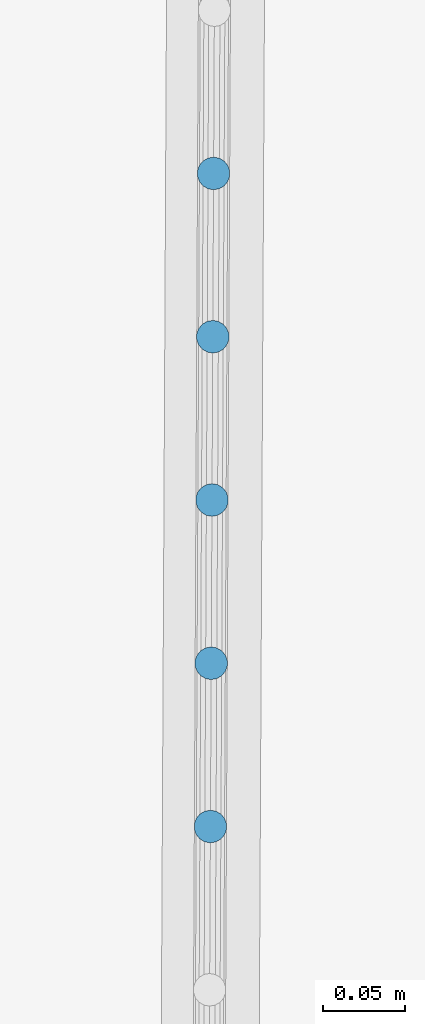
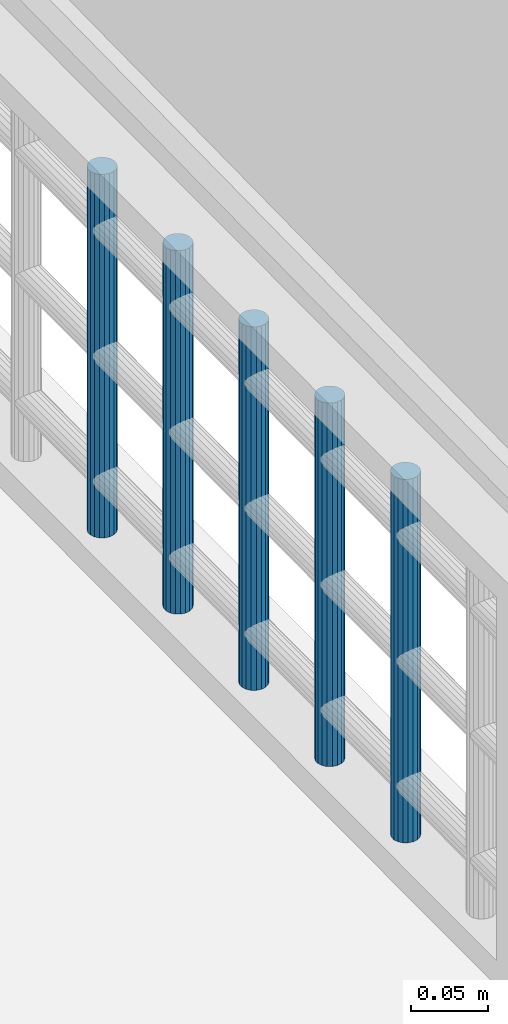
# One storey, part 29 of 66: 5 members, 1 element without a shape of its own.
"""IFC2X3 building model written with IfcOpenShell, lengths in centimetres."""

import ifcopenshell
import ifcopenshell.guid

model = None  # the IFC model being written
_history = None  # IfcOwnerHistory: only IFC2X3 demands one
_inside = {}  # id of a spatial element -> (the spatial element, [elements in it])
_under = {}  # id of a project, library or spatial element -> (it, [spatial elements below it])
_declared = {}  # id of a project -> (the project, [libraries it declares])
_typed = {}  # id of a type object -> (the type object, [elements of that type])
_made_of = {}  # id of a material, layer set ... -> (it, [elements and type objects made of it])


def new_model(schema):
    """Start an empty IFC model of exactly this schema.

    Asked for "IFC4X3", IfcOpenShell would pick the latest addendum, in which some entities
    have other attributes; the version numbers below select the first issue.
    IFC2X3 requires an IfcOwnerHistory on every rooted entity: one is made here for all.
    """
    global model, _history
    if schema == "IFC4X3":
        model = ifcopenshell.file(schema_version=(4, 3, 0, 0))
    else:
        model = ifcopenshell.file(schema=schema)
    _inside.clear()
    _under.clear()
    _declared.clear()
    _typed.clear()
    _made_of.clear()
    _history = None
    if model.schema == "IFC2X3":
        org = make("IfcOrganization", Name="unknown")
        user = make(
            "IfcPersonAndOrganization",
            ThePerson=make("IfcPerson", FamilyName="unknown"),
            TheOrganization=org,
        )
        app = make(
            "IfcApplication",
            ApplicationDeveloper=org,
            Version="unknown",
            ApplicationFullName="unknown",
            ApplicationIdentifier="unknown",
        )
        _history = make(
            "IfcOwnerHistory",
            OwningUser=user,
            OwningApplication=app,
            ChangeAction="ADDED",
            CreationDate=0,
        )
    return model


def make(cls, **values):
    """One entity of the class cls with the attributes given. An attribute that is None is left unset."""
    return model.create_entity(
        cls, **{name: value for name, value in values.items() if value is not None}
    )


def entity(cls, *values):
    """Any entity or typed value of the class cls, its attributes in the order of the schema. None: left unset."""
    e = model.create_entity(cls)
    for i, value in enumerate(values):
        if value is not None:
            e[i] = value
    return e


def rooted(cls, **values):
    """An entity with a GlobalId (a new one), such as an element, a storey or a relation."""
    return make(cls, GlobalId=ifcopenshell.guid.new(), OwnerHistory=_history, **values)


def si_unit(unit_type, name, prefix=None):
    """IfcSIUnit, for example si_unit("LENGTHUNIT", "METRE", prefix="MILLI")."""
    return make("IfcSIUnit", UnitType=unit_type, Prefix=prefix, Name=name)


def converted_unit(unit_type, name, factor, base, dimensions=None, offset=None):
    """IfcConversionBasedUnit, such as the inch: factor (a typed value) times the base unit."""
    return make(
        "IfcConversionBasedUnit"
        if offset is None
        else "IfcConversionBasedUnitWithOffset",
        ConversionOffset=offset,
        Dimensions=None
        if dimensions is None
        else entity("IfcDimensionalExponents", *dimensions),
        UnitType=unit_type,
        Name=name,
        ConversionFactor=make(
            "IfcMeasureWithUnit", ValueComponent=factor, UnitComponent=base
        ),
    )


def assignment(units):
    """IfcUnitAssignment: the units of a project."""
    return None if units is None else make("IfcUnitAssignment", Units=units)


def point(xyz):
    """IfcCartesianPoint."""
    return None if xyz is None else make("IfcCartesianPoint", Coordinates=xyz)


def direction(xyz):
    """IfcDirection."""
    return None if xyz is None else make("IfcDirection", DirectionRatios=xyz)


def frame(location, z_axis=None, x_axis=None):
    """IfcAxis2Placement3D, a coordinate frame: its origin and axes. An axis left out is left unset."""
    return make(
        "IfcAxis2Placement3D",
        Location=point(location),
        Axis=direction(z_axis),
        RefDirection=direction(x_axis),
    )


def origin():
    """The frame at (0, 0, 0) with its axes left unset."""
    return frame((0.0, 0.0, 0.0))


def origin_with_axes():
    """The frame at (0, 0, 0) with the z axis (0, 0, 1) and the x axis (1, 0, 0) written out."""
    return frame((0.0, 0.0, 0.0), z_axis=(0.0, 0.0, 1.0), x_axis=(1.0, 0.0, 0.0))


def place(relative_to, where):
    """IfcLocalPlacement: puts the frame where relative to a parent placement (None: the world)."""
    return make(
        "IfcLocalPlacement", PlacementRelTo=relative_to, RelativePlacement=where
    )


def context(
    kind, dimensions, precision=None, world=None, true_north=None, identifier=None
):
    """IfcGeometricRepresentationContext, for example the 3D "Model" context."""
    return make(
        "IfcGeometricRepresentationContext",
        ContextIdentifier=identifier,
        ContextType=kind,
        CoordinateSpaceDimension=dimensions,
        Precision=precision,
        WorldCoordinateSystem=world,
        TrueNorth=true_north,
    )


def subcontext(parent, identifier, kind, view, scale=None):
    """IfcGeometricRepresentationSubContext, for example "Body" below "Model"."""
    return make(
        "IfcGeometricRepresentationSubContext",
        ContextIdentifier=identifier,
        ContextType=kind,
        ParentContext=parent,
        TargetScale=scale,
        TargetView=view,
    )


def project(units=None, contexts=None):
    """IfcProject with its units and contexts."""
    return rooted(
        "IfcProject",
        Name="project",
        RepresentationContexts=contexts,
        UnitsInContext=assignment(units),
    )


def spatial(cls, under=None, at=None, **own):
    """A site, building, storey or space (cls), placed at a placement, below another one or the project."""
    s = rooted(cls, ObjectPlacement=at, **own)
    if under is not None:
        _under.setdefault(under.id(), (under, []))[1].append(s)
    return s


def faces_of(points, faces, orient=None, outer=None):
    """IfcFace entities. A face is a list of loops; a loop is a list of indices into points, from 0.

    orient and outer hold one flag for each loop. By default every Orientation is true, the
    first loop of a face is its IfcFaceOuterBound and the others are IfcFaceBound.
    """
    made = []
    for i, loops in enumerate(faces):
        bounds = []
        for j, loop in enumerate(loops):
            is_outer = j == 0 if outer is None else outer[i][j]
            bounds.append(
                make(
                    "IfcFaceOuterBound" if is_outer else "IfcFaceBound",
                    Bound=make("IfcPolyLoop", Polygon=[points[k] for k in loop]),
                    Orientation=True if orient is None else orient[i][j],
                )
            )
        made.append(make("IfcFace", Bounds=bounds))
    return made


def faceted_brep(points, faces, orient=None, outer=None, voids=None):
    """IfcFacetedBrep: a solid bounded by flat faces; with voids (closed shells), ...WithVoids."""
    shared = [point(p) for p in points]
    hull = make("IfcClosedShell", CfsFaces=faces_of(shared, faces, orient, outer))
    if voids is None:
        return make("IfcFacetedBrep", Outer=hull)
    return make(
        "IfcFacetedBrepWithVoids",
        Outer=hull,
        Voids=[
            make(cls, CfsFaces=faces_of(shared, fs, o, b)) for cls, fs, o, b in voids
        ],
    )


def shape(context_of_items, identifier, shape_type, items):
    """IfcShapeRepresentation: the items that make up one representation, for example the "Body"."""
    return make(
        "IfcShapeRepresentation",
        ContextOfItems=context_of_items,
        RepresentationIdentifier=identifier,
        RepresentationType=shape_type,
        Items=items,
    )


def material(Name=None, Category=None):
    """IfcMaterial."""
    return make("IfcMaterial", Name=Name, Category=Category)


def made_of(thing, what):
    """Note that an element or type object is made of a material, layer set ...; save() writes the relation."""
    if what is not None:
        _made_of.setdefault(what.id(), (what, []))[1].append(thing)
    return thing


def type_object(cls, material=None, **own):
    """A type object (cls), such as IfcWallType, which elements share."""
    return made_of(rooted(cls, **own), material)


def element(
    cls,
    number,
    at=None,
    inside=None,
    cuts=None,
    type_object=None,
    material=None,
    context=None,
    identifier="Body",
    shape_type=None,
    held_by="IfcProductDefinitionShape",
    body=None,
    shapes=None,
    **own,
):
    """One element of the class cls, such as IfcWall. Its Tag is "e" and its number.

    at: its placement. inside: the storey or other place that contains it. cuts: it is an
    opening in that element (IfcRelVoidsElement). A single representation is given by context,
    identifier, shape_type and body (its items); several are given by shapes. held_by: the class
    of the entity that holds the representations. save() writes the other relations.
    """
    e = rooted(cls, Tag="e%d" % number, ObjectPlacement=at, **own)
    if body is not None:
        shapes = [shape(context, identifier, shape_type, body)]
    if shapes is not None:
        e.Representation = make(held_by, Representations=shapes)
    if inside is not None:
        _inside.setdefault(inside.id(), (inside, []))[1].append(e)
    if cuts is not None:
        rooted(
            "IfcRelVoidsElement", RelatingBuildingElement=cuts, RelatedOpeningElement=e
        )
    if type_object is not None:
        _typed.setdefault(type_object.id(), (type_object, []))[1].append(e)
    return made_of(e, material)


def aggregate(whole, parts):
    """IfcRelAggregates: a whole, such as a stair, and the parts it consists of."""
    return rooted("IfcRelAggregates", RelatingObject=whole, RelatedObjects=parts)


def save(model, path):
    """Write the relations noted so far, then the file.

    IfcRelAggregates (storeys below a building ...), IfcRelContainedInSpatialStructure (elements
    in a storey), IfcRelDefinesByType, IfcRelAssociatesMaterial and IfcRelDeclares: one each for
    every whole, place, type object, material and project.
    """
    for whole, parts in _under.values():
        aggregate(whole, parts)
    for where, things in _inside.values():
        rooted(
            "IfcRelContainedInSpatialStructure",
            RelatedElements=things,
            RelatingStructure=where,
        )
    for kind, things in _typed.values():
        rooted("IfcRelDefinesByType", RelatedObjects=things, RelatingType=kind)
    for what, things in _made_of.values():
        rooted("IfcRelAssociatesMaterial", RelatedObjects=things, RelatingMaterial=what)
    for by, libraries in _declared.values():
        rooted("IfcRelDeclares", RelatingContext=by, RelatedDefinitions=libraries)
    model.write(path)


model = new_model("IFC2X3")

# Units and contexts
model_context = context("Model", 3, precision=0.0001, world=origin(), true_north=direction((0.225632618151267, 0.974212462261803, 0.0)))
body_context = subcontext(model_context, "Body", "Model", "MODEL_VIEW")
ifc_project = project(units=[si_unit("LENGTHUNIT", "METRE", prefix="CENTI"), si_unit("AREAUNIT", "SQUARE_METRE", prefix="CENTI"), si_unit("VOLUMEUNIT", "CUBIC_METRE", prefix="CENTI"), converted_unit("PLANEANGLEUNIT", "DEGREE", entity("IfcRatioMeasure", 0.0174532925), si_unit("PLANEANGLEUNIT", "RADIAN"), dimensions=[0, 0, 0, 0, 0, 0, 0])], contexts=[model_context])

# Site, building, storey
site_placement = place(None, origin_with_axes())
site = spatial("IfcSite", under=ifc_project, at=site_placement, Name="Default Site", CompositionType="ELEMENT")
building_placement = place(site_placement, origin_with_axes())
building = spatial("IfcBuilding", under=site, at=building_placement, Name="Default Building", CompositionType="ELEMENT")
storey_placement = place(building_placement, frame((0.0, 0.0, 477.795358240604), z_axis=(0.0, 0.0, 1.0), x_axis=(1.0, 0.0, 0.0)))
storey = spatial("IfcBuildingStorey", under=building, at=storey_placement, Name="Niveau 1", CompositionType="ELEMENT", Elevation=477.795358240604)

# Assembly, members
building_element_proxy_type = type_object("IfcBuildingElementProxyType", Name="Type Object", PredefinedType="NOTDEFINED")
assembly_placement = place(storey_placement, frame((1065.11691205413, 138.297750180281, 9.99999999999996), z_axis=(0.0, 0.0, 1.0), x_axis=(-0.00486371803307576, -0.999988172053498, 0.0)))
assembly = element("IfcElementAssembly", 1, at=assembly_placement, inside=storey, type_object=building_element_proxy_type, Name="Panneau 1702029", ObjectType="Precast panel", PredefinedType="USERDEFINED")
ifc_material = material(Name="Aluminium satiné")
member_1_placement = place(assembly_placement, frame((88.439691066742, 0.342020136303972, 31.0000002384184), z_axis=(0.0, 0.0, 1.0), x_axis=(0.499995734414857, -0.866027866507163, 0.0)))
member_1 = element("IfcMember", 2, at=member_1_placement, material=ifc_material, Name="4294967049", context=body_context, shape_type="Brep", body=[
    faceted_brep([(-2.77555756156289e-13, 7.7715611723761e-14, -9.43689570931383e-14), (-0.347295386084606, 5.55111512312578e-14, -9.43689570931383e-14), (-0.673647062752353, -0.118784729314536, -9.43689570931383e-14), (-0.939691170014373, -0.342025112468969, -9.43689570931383e-14), (-1.11333590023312, -0.642790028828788, -9.43689570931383e-14), (-1.17364232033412, -0.984811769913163, -9.43689570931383e-14), (-1.1133337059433, -1.32683238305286, -9.43689570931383e-14), (-0.939683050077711, -1.62759729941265, -9.43689570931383e-14), (-0.673637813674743, -1.850834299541, -9.43689570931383e-14), (-0.34728511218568, -1.96961451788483, -9.43689570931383e-14), (1.02738986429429e-05, -1.96961451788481, -9.43689570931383e-14), (0.326361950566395, -1.85082978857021, -9.43689570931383e-14), (0.592406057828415, -1.62758940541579, -9.43689570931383e-14), (0.766050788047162, -1.32682448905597, -9.43689570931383e-14), (0.82635720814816, -0.98480274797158, -9.43689570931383e-14), (0.766048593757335, -0.642782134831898, -9.43689570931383e-14), (0.592397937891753, -0.342017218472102, -9.43689570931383e-14), (0.326352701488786, -0.11878021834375, -9.43689570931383e-14), (0.326352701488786, -0.11878021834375, -29.0000002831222), (0.592397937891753, -0.342017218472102, -29.0000002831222), (0.766048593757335, -0.642782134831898, -29.0000002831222), (0.82635720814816, -0.98480274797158, -29.0000002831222), (0.766050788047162, -1.32682448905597, -29.0000002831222), (0.592406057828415, -1.62758940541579, -29.0000002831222), (0.326361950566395, -1.85082978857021, -29.0000002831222), (1.02738986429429e-05, -1.96961451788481, -29.0000002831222), (-0.34728511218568, -1.96961451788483, -29.0000002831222), (-0.673637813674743, -1.850834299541, -29.0000002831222), (-0.939683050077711, -1.62759729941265, -29.0000002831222), (-1.1133337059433, -1.32683238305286, -29.0000002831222), (-1.17364232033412, -0.984811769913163, -29.0000002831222), (-1.11333590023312, -0.642790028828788, -29.0000002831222), (-0.939691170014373, -0.342025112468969, -29.0000002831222), (-0.673647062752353, -0.118784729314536, -29.0000002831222), (-0.347295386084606, 5.55111512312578e-14, -29.0000002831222), (-2.77555756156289e-13, 7.7715611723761e-14, -29.0000002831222), (0.592398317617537, -0.342016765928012, -9.43689570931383e-14), (0.592398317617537, -0.342016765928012, -29.0000002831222), (0.766047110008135, -0.642782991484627, -9.43689570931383e-14), (0.766047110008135, -0.642782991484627, -29.0000002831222), (0.826357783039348, -0.98480264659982, -9.43689570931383e-14), (0.826357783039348, -0.98480264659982, -29.0000002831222), (0.766051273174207, -1.32682457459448, -9.43689570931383e-14), (0.766051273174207, -1.32682457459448, -29.0000002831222), (0.592406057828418, -1.62758940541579, -9.43689570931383e-14), (0.592406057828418, -1.62758940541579, -29.0000002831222), (0.326361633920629, -1.85082941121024, -9.43689570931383e-14), (0.326361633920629, -1.85082941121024, -29.0000002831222), (1.00742381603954e-05, -1.96961396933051, -9.43689570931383e-14), (1.00742381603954e-05, -1.96961396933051, -29.0000002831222), (-0.347285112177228, -1.9696162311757, -9.43689570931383e-14), (-0.347285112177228, -1.9696162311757, -29.0000002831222), (-0.673637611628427, -1.8508337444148, -9.43689570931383e-14), (-0.673637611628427, -1.8508337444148, -29.0000002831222), (-0.939683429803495, -1.62759775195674, -9.43689570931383e-14), (-0.939683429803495, -1.62759775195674, -29.0000002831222), (-1.11333222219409, -1.32683152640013, -9.43689570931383e-14), (-1.11333222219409, -1.32683152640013, -29.0000002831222), (-1.17364289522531, -0.984811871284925, -9.43689570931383e-14), (-1.17364289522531, -0.984811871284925, -29.0000002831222), (-1.11333638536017, -0.64278994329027, -9.43689570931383e-14), (-1.11333638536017, -0.64278994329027, -29.0000002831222), (-0.939691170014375, -0.342025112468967, -9.43689570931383e-14), (-0.939691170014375, -0.342025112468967, -29.0000002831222), (-0.673646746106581, -0.118785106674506, -9.43689570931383e-14), (-0.673646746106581, -0.118785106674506, -29.0000002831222), (-0.347295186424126, -5.48554236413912e-07, -9.43689570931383e-14), (-0.347295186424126, -5.48554236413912e-07, -29.0000002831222), (-8.72962783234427e-12, 1.71329094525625e-06, -9.43689570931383e-14), (-8.72962783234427e-12, 1.71329094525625e-06, -29.0000002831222), (0.326352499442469, -0.118780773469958, -9.43689570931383e-14), (0.326352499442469, -0.118780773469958, -29.0000002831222)], [[[0, 1, 2, 3, 4, 5, 6, 7, 8, 9, 10, 11, 12, 13, 14, 15, 16, 17]], [[18, 19, 20, 21, 22, 23, 24, 25, 26, 27, 28, 29, 30, 31, 32, 33, 34, 35]], [[17, 36, 37, 18]], [[16, 38, 39, 19]], [[15, 40, 41, 20]], [[14, 42, 43, 21]], [[13, 44, 45, 22]], [[12, 46, 47, 23]], [[11, 48, 49, 24]], [[10, 50, 51, 25]], [[9, 52, 53, 26]], [[8, 54, 55, 27]], [[7, 56, 57, 28]], [[6, 58, 59, 29]], [[5, 60, 61, 30]], [[4, 62, 63, 31]], [[3, 64, 65, 32]], [[2, 66, 67, 33]], [[1, 68, 69, 34]], [[0, 70, 71, 35]]]),
])
member_2_placement = place(assembly_placement, frame((98.4396934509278, 0.342020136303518, 31.0000002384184), z_axis=(0.0, 0.0, 1.0), x_axis=(0.499995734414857, -0.866027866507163, 0.0)))
member_2 = element("IfcMember", 3, at=member_2_placement, material=ifc_material, Name="4294967048", context=body_context, shape_type="Brep", body=[
    faceted_brep([(-2.83106871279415e-13, 4.44089209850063e-14, -9.43689570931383e-14), (-0.347295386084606, 2.22044604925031e-14, -9.43689570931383e-14), (-0.673647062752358, -0.118784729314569, -9.43689570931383e-14), (-0.939691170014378, -0.342025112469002, -9.43689570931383e-14), (-1.11333888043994, -0.642795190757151, -9.43689570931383e-14), (-1.17364232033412, -0.984811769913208, -9.43689570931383e-14), (-1.1133337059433, -1.32683238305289, -9.43689570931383e-14), (-0.939686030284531, -1.62760246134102, -9.43689570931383e-14), (-0.673640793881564, -1.85083946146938, -9.43689570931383e-14), (-0.3472880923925, -1.96961967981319, -9.43689570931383e-14), (1.02738986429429e-05, -1.96961451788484, -9.43689570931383e-14), (0.32636195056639, -1.85082978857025, -9.43689570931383e-14), (0.592403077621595, -1.62759456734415, -9.43689570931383e-14), (0.766050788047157, -1.326824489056, -9.43689570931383e-14), (0.826357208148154, -0.984802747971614, -9.43689570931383e-14), (0.766048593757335, -0.642782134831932, -9.43689570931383e-14), (0.592397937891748, -0.342017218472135, -9.43689570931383e-14), (0.32635270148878, -0.118780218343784, -9.43689570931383e-14), (0.32635270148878, -0.118780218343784, -29.0000002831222), (0.592397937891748, -0.342017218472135, -29.0000002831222), (0.766048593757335, -0.642782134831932, -29.0000002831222), (0.826357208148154, -0.984802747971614, -29.0000002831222), (0.766050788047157, -1.326824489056, -29.0000002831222), (0.592403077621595, -1.62759456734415, -29.0000002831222), (0.32636195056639, -1.85082978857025, -29.0000002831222), (1.02738986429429e-05, -1.96961451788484, -29.0000002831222), (-0.3472880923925, -1.96961967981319, -29.0000002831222), (-0.673640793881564, -1.85083946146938, -29.0000002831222), (-0.939686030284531, -1.62760246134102, -29.0000002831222), (-1.1133337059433, -1.32683238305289, -29.0000002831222), (-1.17364232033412, -0.984811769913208, -29.0000002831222), (-1.11333888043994, -0.642795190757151, -29.0000002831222), (-0.939691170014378, -0.342025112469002, -29.0000002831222), (-0.673647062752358, -0.118784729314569, -29.0000002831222), (-0.347295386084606, 2.22044604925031e-14, -29.0000002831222), (-2.83106871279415e-13, 4.44089209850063e-14, -29.0000002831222), (0.592398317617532, -0.342016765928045, -9.43689570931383e-14), (0.592398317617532, -0.342016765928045, -29.0000002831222), (0.766047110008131, -0.642782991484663, -9.43689570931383e-14), (0.766047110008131, -0.642782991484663, -29.0000002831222), (0.826357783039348, -0.984802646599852, -9.43689570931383e-14), (0.826357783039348, -0.984802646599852, -29.0000002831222), (0.766051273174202, -1.32682457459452, -9.43689570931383e-14), (0.766051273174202, -1.32682457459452, -29.0000002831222), (0.5924030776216, -1.62759456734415, -9.43689570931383e-14), (0.5924030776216, -1.62759456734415, -29.0000002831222), (0.326362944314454, -1.85083097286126, -9.43689570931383e-14), (0.326362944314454, -1.85083097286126, -29.0000002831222), (1.0074238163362e-05, -1.96961396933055, -9.43689570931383e-14), (1.0074238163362e-05, -1.96961396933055, -29.0000002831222), (-0.347288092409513, -1.96961623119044, -9.43689570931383e-14), (-0.347288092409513, -1.96961623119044, -29.0000002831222), (-0.673640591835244, -1.85083890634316, -9.43689570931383e-14), (-0.673640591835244, -1.85083890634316, -29.0000002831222), (-0.939686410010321, -1.62760291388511, -9.43689570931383e-14), (-0.939686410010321, -1.62760291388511, -29.0000002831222), (-1.11333669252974, -1.32683410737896, -9.43689570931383e-14), (-1.11333669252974, -1.32683410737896, -29.0000002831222), (-1.17364289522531, -0.984811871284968, -9.43689570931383e-14), (-1.17364289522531, -0.984811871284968, -29.0000002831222), (-1.11333735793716, -0.642795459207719, -9.43689570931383e-14), (-1.11333735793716, -0.642795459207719, -29.0000002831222), (-0.939691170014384, -0.342025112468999, -9.43689570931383e-14), (-0.939691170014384, -0.342025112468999, -29.0000002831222), (-0.673646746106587, -0.11878510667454, -9.43689570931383e-14), (-0.673646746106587, -0.11878510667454, -29.0000002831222), (-0.347295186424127, -5.48554267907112e-07, -9.43689570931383e-14), (-0.347295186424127, -5.48554267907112e-07, -29.0000002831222), (-8.73517894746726e-12, 1.71329091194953e-06, -9.43689570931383e-14), (-8.73517894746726e-12, 1.71329091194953e-06, -29.0000002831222), (0.326352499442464, -0.118780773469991, -9.43689570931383e-14), (0.326352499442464, -0.118780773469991, -29.0000002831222)], [[[0, 1, 2, 3, 4, 5, 6, 7, 8, 9, 10, 11, 12, 13, 14, 15, 16, 17]], [[18, 19, 20, 21, 22, 23, 24, 25, 26, 27, 28, 29, 30, 31, 32, 33, 34, 35]], [[17, 36, 37, 18]], [[16, 38, 39, 19]], [[15, 40, 41, 20]], [[14, 42, 43, 21]], [[13, 44, 45, 22]], [[12, 46, 47, 23]], [[11, 48, 49, 24]], [[10, 50, 51, 25]], [[9, 52, 53, 26]], [[8, 54, 55, 27]], [[7, 56, 57, 28]], [[6, 58, 59, 29]], [[5, 60, 61, 30]], [[4, 62, 63, 31]], [[3, 64, 65, 32]], [[2, 66, 67, 33]], [[1, 68, 69, 34]], [[0, 70, 71, 35]]]),
])
member_3_placement = place(assembly_placement, frame((108.439695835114, 0.342020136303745, 31.0000002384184), z_axis=(0.0, 0.0, 1.0), x_axis=(0.500008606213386, -0.866020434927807, 0.0)))
member_3 = element("IfcMember", 4, at=member_3_placement, material=ifc_material, Name="4294967047", context=body_context, shape_type="Brep", body=[
    faceted_brep([(-1.66533453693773e-13, 2.22044604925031e-13, -8.32667268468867e-14), (-0.347298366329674, 1.88737914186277e-13, -8.32667268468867e-14), (-0.673648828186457, -0.118774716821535, -8.32667268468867e-14), (-0.939699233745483, -0.342016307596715, -8.32667268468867e-14), (-1.11334843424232, -0.642778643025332, -8.32667268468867e-14), (-1.17365695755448, -0.984794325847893, -8.32667268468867e-14), (-1.11335640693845, -1.32682099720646, -8.32667268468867e-14), (-0.939713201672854, -1.62759365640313, -8.32667268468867e-14), (-0.67366532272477, -1.85082428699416, -8.32667268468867e-14), (-0.3473203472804, -1.96961967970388, -8.32667268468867e-14), (-2.1980950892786e-05, -1.96961967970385, -8.32667268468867e-14), (0.326334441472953, -1.85083463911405, -8.32667268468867e-14), (0.592378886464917, -1.62760337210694, -8.32667268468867e-14), (0.766028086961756, -1.32684103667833, -8.32667268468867e-14), (0.826342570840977, -0.984815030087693, -8.32667268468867e-14), (0.766036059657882, -0.642798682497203, -8.32667268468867e-14), (0.592392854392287, -0.342026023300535, -8.32667268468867e-14), (0.326350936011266, -0.118785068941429, -8.32667268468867e-14), (0.326350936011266, -0.118785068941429, -29.0000002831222), (0.592392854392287, -0.342026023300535, -29.0000002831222), (0.766036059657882, -0.642798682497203, -29.0000002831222), (0.826342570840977, -0.984815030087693, -29.0000002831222), (0.766028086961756, -1.32684103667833, -29.0000002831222), (0.592378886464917, -1.62760337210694, -29.0000002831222), (0.326334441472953, -1.85083463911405, -29.0000002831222), (-2.1980950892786e-05, -1.96961967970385, -29.0000002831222), (-0.3473203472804, -1.96961967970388, -29.0000002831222), (-0.67366532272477, -1.85082428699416, -29.0000002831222), (-0.939713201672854, -1.62759365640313, -29.0000002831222), (-1.11335640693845, -1.32682099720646, -29.0000002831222), (-1.17365695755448, -0.984794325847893, -29.0000002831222), (-1.11334843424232, -0.642778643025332, -29.0000002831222), (-0.939699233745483, -0.342016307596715, -29.0000002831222), (-0.673648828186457, -0.118774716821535, -29.0000002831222), (-0.347298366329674, 1.88737914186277e-13, -29.0000002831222), (-1.66533453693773e-13, 2.22044604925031e-13, -29.0000002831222), (0.592393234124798, -0.342025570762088, -8.32667268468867e-14), (0.592393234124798, -0.342025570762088, -29.0000002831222), (0.766039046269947, -0.642796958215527, -8.32667268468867e-14), (0.766039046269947, -0.642796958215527, -29.0000002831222), (0.826339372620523, -0.984815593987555, -8.32667268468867e-14), (0.826339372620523, -0.984815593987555, -29.0000002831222), (0.766030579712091, -1.32684147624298, -8.32667268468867e-14), (0.766030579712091, -1.32684147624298, -29.0000002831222), (0.592378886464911, -1.62760337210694, -8.32667268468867e-14), (0.592378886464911, -1.62760337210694, -29.0000002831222), (0.326335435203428, -1.85083582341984, -8.32667268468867e-14), (0.326335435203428, -1.85083582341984, -29.0000002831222), (-2.34909535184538e-05, -1.96961553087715, -8.32667268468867e-14), (-2.34909535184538e-05, -1.96961553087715, -29.0000002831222), (-0.347320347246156, -1.96961623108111, -8.32667268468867e-14), (-0.347320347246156, -1.96961623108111, -29.0000002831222), (-0.673669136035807, -1.85083476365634, -8.32667268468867e-14), (-0.673669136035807, -1.85083476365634, -29.0000002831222), (-0.939706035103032, -1.62758511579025, -8.32667268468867e-14), (-0.939706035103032, -1.62758511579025, -29.0000002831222), (-1.11335939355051, -1.32682272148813, -8.32667268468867e-14), (-1.11335939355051, -1.32682272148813, -29.0000002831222), (-1.17366130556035, -0.98479509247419, -8.32667268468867e-14), (-1.17366130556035, -0.98479509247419, -29.0000002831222), (-1.11334691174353, -0.642778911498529, -8.32667268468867e-14), (-1.11334691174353, -0.642778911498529, -29.0000002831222), (-0.939699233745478, -0.342016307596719, -8.32667268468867e-14), (-0.939699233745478, -0.342016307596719, -29.0000002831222), (-0.673647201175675, -0.118776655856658, -8.32667268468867e-14), (-0.673647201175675, -0.118776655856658, -29.0000002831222), (-0.347299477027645, 3.05171236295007e-06, -8.32667268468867e-14), (-0.347299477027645, 3.05171236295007e-06, -29.0000002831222), (-3.44108607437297e-11, -3.44862255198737e-06, -8.32667268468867e-14), (-3.44108607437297e-11, -3.44862255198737e-06, -29.0000002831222), (0.3263507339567, -0.118785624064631, -8.32667268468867e-14), (0.3263507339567, -0.118785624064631, -29.0000002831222)], [[[0, 1, 2, 3, 4, 5, 6, 7, 8, 9, 10, 11, 12, 13, 14, 15, 16, 17]], [[18, 19, 20, 21, 22, 23, 24, 25, 26, 27, 28, 29, 30, 31, 32, 33, 34, 35]], [[17, 36, 37, 18]], [[16, 38, 39, 19]], [[15, 40, 41, 20]], [[14, 42, 43, 21]], [[13, 44, 45, 22]], [[12, 46, 47, 23]], [[11, 48, 49, 24]], [[10, 50, 51, 25]], [[9, 52, 53, 26]], [[8, 54, 55, 27]], [[7, 56, 57, 28]], [[6, 58, 59, 29]], [[5, 60, 61, 30]], [[4, 62, 63, 31]], [[3, 64, 65, 32]], [[2, 66, 67, 33]], [[1, 68, 69, 34]], [[0, 70, 71, 35]]]),
])
member_4_placement = place(assembly_placement, frame((118.439698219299, 0.342020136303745, 31.0000002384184), z_axis=(0.0, 0.0, 1.0), x_axis=(0.500008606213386, -0.866020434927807, 0.0)))
member_4 = element("IfcMember", 5, at=member_4_placement, material=ifc_material, Name="4294967046", context=body_context, shape_type="Brep", body=[
    faceted_brep([(-1.77635683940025e-13, 1.77635683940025e-13, -8.32667268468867e-14), (-0.347298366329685, 1.77635683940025e-13, -8.32667268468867e-14), (-0.67365478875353, -0.11878504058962, -8.32667268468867e-14), (-0.939699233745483, -0.342016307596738, -8.32667268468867e-14), (-1.11334843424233, -0.642778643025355, -8.32667268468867e-14), (-1.17366291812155, -0.984804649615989, -8.32667268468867e-14), (-1.11335640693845, -1.32682099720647, -8.32667268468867e-14), (-0.939713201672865, -1.62759365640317, -8.32667268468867e-14), (-0.673671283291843, -1.85083461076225, -8.32667268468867e-14), (-0.347320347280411, -1.9696196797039, -8.32667268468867e-14), (-2.1980950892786e-05, -1.96961967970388, -8.32667268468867e-14), (0.32632848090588, -1.85084496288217, -8.32667268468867e-14), (0.592378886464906, -1.62760337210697, -8.32667268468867e-14), (0.766028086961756, -1.32684103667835, -8.32667268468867e-14), (0.826336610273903, -0.984825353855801, -8.32667268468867e-14), (0.766036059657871, -0.642798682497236, -8.32667268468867e-14), (0.592392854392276, -0.342026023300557, -8.32667268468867e-14), (0.326344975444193, -0.118795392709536, -8.32667268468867e-14), (0.326344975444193, -0.118795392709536, -29.0000002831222), (0.592392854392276, -0.342026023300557, -29.0000002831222), (0.766036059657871, -0.642798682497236, -29.0000002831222), (0.826336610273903, -0.984825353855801, -29.0000002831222), (0.766028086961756, -1.32684103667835, -29.0000002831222), (0.592378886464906, -1.62760337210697, -29.0000002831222), (0.32632848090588, -1.85084496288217, -29.0000002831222), (-2.1980950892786e-05, -1.96961967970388, -29.0000002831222), (-0.347320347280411, -1.9696196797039, -29.0000002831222), (-0.673671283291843, -1.85083461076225, -29.0000002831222), (-0.939713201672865, -1.62759365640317, -29.0000002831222), (-1.11335640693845, -1.32682099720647, -29.0000002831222), (-1.17366291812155, -0.984804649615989, -29.0000002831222), (-1.11334843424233, -0.642778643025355, -29.0000002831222), (-0.939699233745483, -0.342016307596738, -29.0000002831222), (-0.67365478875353, -0.11878504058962, -29.0000002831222), (-0.347298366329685, 1.77635683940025e-13, -29.0000002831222), (-1.77635683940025e-13, 1.77635683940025e-13, -29.0000002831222), (0.592385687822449, -0.342034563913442, -8.32667268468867e-14), (0.592385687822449, -0.342034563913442, -29.0000002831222), (0.766039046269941, -0.642796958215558, -8.32667268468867e-14), (0.766039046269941, -0.642796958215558, -29.0000002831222), (0.826340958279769, -0.984824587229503, -8.32667268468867e-14), (0.826340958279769, -0.984824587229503, -29.0000002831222), (0.766026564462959, -1.32684076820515, -8.32667268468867e-14), (0.766026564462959, -1.32684076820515, -29.0000002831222), (0.592378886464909, -1.62760337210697, -8.32667268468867e-14), (0.592378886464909, -1.62760337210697, -29.0000002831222), (0.326326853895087, -1.85084302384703, -8.32667268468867e-14), (0.326326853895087, -1.85084302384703, -29.0000002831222), (-2.08702529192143e-05, -1.96962273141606, -8.32667268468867e-14), (-2.08702529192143e-05, -1.96962273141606, -29.0000002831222), (-0.347320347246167, -1.96961623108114, -8.32667268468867e-14), (-0.347320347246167, -1.96961623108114, -29.0000002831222), (-0.673671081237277, -1.85083405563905, -8.32667268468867e-14), (-0.673671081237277, -1.85083405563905, -29.0000002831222), (-0.939713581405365, -1.6275941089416, -8.32667268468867e-14), (-0.939713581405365, -1.6275941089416, -29.0000002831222), (-1.11335939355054, -1.32682272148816, -8.32667268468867e-14), (-1.11335939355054, -1.32682272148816, -29.0000002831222), (-1.17365971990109, -0.984804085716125, -8.32667268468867e-14), (-1.17365971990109, -0.984804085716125, -29.0000002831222), (-1.11335092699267, -0.642778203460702, -8.32667268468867e-14), (-1.11335092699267, -0.642778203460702, -29.0000002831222), (-0.939699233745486, -0.342016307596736, -8.32667268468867e-14), (-0.939699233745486, -0.342016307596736, -29.0000002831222), (-0.673655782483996, -0.118783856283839, -8.32667268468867e-14), (-0.673655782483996, -0.118783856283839, -29.0000002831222), (-0.347296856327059, -4.1488265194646e-06, -8.32667268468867e-14), (-0.347296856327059, -4.1488265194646e-06, -29.0000002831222), (-3.44219626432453e-11, -3.4486225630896e-06, -8.32667268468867e-14), (-3.44219626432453e-11, -3.4486225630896e-06, -29.0000002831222), (0.326348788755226, -0.118784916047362, -8.32667268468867e-14), (0.326348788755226, -0.118784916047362, -29.0000002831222)], [[[0, 1, 2, 3, 4, 5, 6, 7, 8, 9, 10, 11, 12, 13, 14, 15, 16, 17]], [[18, 19, 20, 21, 22, 23, 24, 25, 26, 27, 28, 29, 30, 31, 32, 33, 34, 35]], [[17, 36, 37, 18]], [[16, 38, 39, 19]], [[15, 40, 41, 20]], [[14, 42, 43, 21]], [[13, 44, 45, 22]], [[12, 46, 47, 23]], [[11, 48, 49, 24]], [[10, 50, 51, 25]], [[9, 52, 53, 26]], [[8, 54, 55, 27]], [[7, 56, 57, 28]], [[6, 58, 59, 29]], [[5, 60, 61, 30]], [[4, 62, 63, 31]], [[3, 64, 65, 32]], [[2, 66, 67, 33]], [[1, 68, 69, 34]], [[0, 70, 71, 35]]]),
])
member_5_placement = place(assembly_placement, frame((128.439688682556, 0.342020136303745, 31.0000002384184), z_axis=(0.0, 0.0, 1.0), x_axis=(0.499982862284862, -0.866035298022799, 0.0)))
member_5 = element("IfcMember", 6, at=member_5_placement, material=ifc_material, Name="4294967045", context=body_context, shape_type="Brep", body=[
    faceted_brep([(-8.88178419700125e-14, 6.66133814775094e-14, -9.99200722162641e-14), (-0.347292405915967, 0.0, -9.99200722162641e-14), (-0.673645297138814, -0.118794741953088, -9.99200722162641e-14), (-0.939683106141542, -0.34203391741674, -9.99200722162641e-14), (-1.11332336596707, -0.642801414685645, -9.99200722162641e-14), (-1.17362768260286, -0.984829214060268, -9.99200722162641e-14), (-1.11331100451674, -1.32684376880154, -9.99200722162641e-14), (-0.939658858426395, -1.62761126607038, -9.99200722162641e-14), (-0.67361030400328, -1.85084431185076, -9.99200722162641e-14), (-0.347255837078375, -1.96961967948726, -9.99200722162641e-14), (4.252909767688e-05, -1.96960935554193, -9.99200722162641e-14), (0.32638946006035, -1.8508249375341, -9.99200722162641e-14), (0.592433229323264, -1.62757543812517, -9.99200722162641e-14), (0.766073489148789, -1.32680794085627, -9.99200722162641e-14), (0.826371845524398, -0.984790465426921, -9.99200722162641e-14), (0.766061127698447, -0.64276558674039, -9.99200722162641e-14), (0.592403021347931, -0.342008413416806, -9.99200722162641e-14), (0.326354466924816, -0.118775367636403, -9.99200722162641e-14), (0.326354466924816, -0.118775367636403, -29.0000002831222), (0.592403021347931, -0.342008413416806, -29.0000002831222), (0.766061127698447, -0.64276558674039, -29.0000002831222), (0.826371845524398, -0.984790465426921, -29.0000002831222), (0.766073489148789, -1.32680794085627, -29.0000002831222), (0.592433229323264, -1.62757543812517, -29.0000002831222), (0.32638946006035, -1.8508249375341, -29.0000002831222), (4.252909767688e-05, -1.96960935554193, -29.0000002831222), (-0.347255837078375, -1.96961967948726, -29.0000002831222), (-0.67361030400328, -1.85084431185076, -29.0000002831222), (-0.939658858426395, -1.62761126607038, -29.0000002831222), (-1.11331100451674, -1.32684376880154, -29.0000002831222), (-1.17362768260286, -0.984829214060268, -29.0000002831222), (-1.11332336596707, -0.642801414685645, -29.0000002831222), (-0.939683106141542, -0.34203391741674, -29.0000002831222), (-0.673645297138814, -0.118794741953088, -29.0000002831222), (-0.347292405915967, 0.0, -29.0000002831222), (-8.88178419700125e-14, 6.66133814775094e-14, -29.0000002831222), (0.592403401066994, -0.342007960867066, -9.99200722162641e-14), (0.592403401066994, -0.342007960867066, -29.0000002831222), (0.766055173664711, -0.642769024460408, -9.99200722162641e-14), (0.766055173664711, -0.642769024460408, -29.0000002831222), (0.826376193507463, -0.984789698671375, -9.99200722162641e-14), (0.826376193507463, -0.984789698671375, -29.0000002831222), (0.766071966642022, -1.32680767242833, -9.99200722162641e-14), (0.766071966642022, -1.32680767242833, -29.0000002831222), (0.592433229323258, -1.62757543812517, -9.99200722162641e-14), (0.592433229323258, -1.62757543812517, -29.0000002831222), (0.326387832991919, -1.85082299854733, -9.99200722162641e-14), (0.326387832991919, -1.85082299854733, -29.0000002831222), (4.36398863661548e-05, -1.9696124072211, -9.99200722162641e-14), (4.36398863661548e-05, -1.9696124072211, -29.0000002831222), (-0.347255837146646, -1.96961623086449, -9.99200722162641e-14), (-0.347255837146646, -1.96961623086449, -29.0000002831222), (-0.673610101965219, -1.85084375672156, -9.99200722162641e-14), (-0.673610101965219, -1.85084375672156, -29.0000002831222), (-0.939659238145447, -1.62761171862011, -9.99200722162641e-14), (-0.939659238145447, -1.62761171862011, -29.0000002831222), (-1.11331399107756, -1.32684549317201, -9.99200722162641e-14), (-1.11331399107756, -1.32684549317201, -29.0000002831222), (-1.17362448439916, -0.984828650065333, -9.99200722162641e-14), (-1.17362448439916, -0.984828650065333, -29.0000002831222), (-1.11332585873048, -0.642800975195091, -9.99200722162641e-14), (-1.11332585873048, -0.642800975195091, -29.0000002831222), (-0.939683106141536, -0.342033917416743, -9.99200722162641e-14), (-0.939683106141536, -0.342033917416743, -29.0000002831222), (-0.673646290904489, -0.118793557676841, -9.99200722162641e-14), (-0.673646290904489, -0.118793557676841, -29.0000002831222), (-0.347290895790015, -4.14878180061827e-06, -9.99200722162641e-14), (-0.347290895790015, -4.14878180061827e-06, -29.0000002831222), (-1.36194406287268e-10, 6.87520455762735e-06, -9.99200722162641e-14), (-1.36194406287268e-10, 6.87520455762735e-06, -29.0000002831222), (0.326354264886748, -0.118775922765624, -9.99200722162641e-14), (0.326354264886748, -0.118775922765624, -29.0000002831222)], [[[0, 1, 2, 3, 4, 5, 6, 7, 8, 9, 10, 11, 12, 13, 14, 15, 16, 17]], [[18, 19, 20, 21, 22, 23, 24, 25, 26, 27, 28, 29, 30, 31, 32, 33, 34, 35]], [[17, 36, 37, 18]], [[16, 38, 39, 19]], [[15, 40, 41, 20]], [[14, 42, 43, 21]], [[13, 44, 45, 22]], [[12, 46, 47, 23]], [[11, 48, 49, 24]], [[10, 50, 51, 25]], [[9, 52, 53, 26]], [[8, 54, 55, 27]], [[7, 56, 57, 28]], [[6, 58, 59, 29]], [[5, 60, 61, 30]], [[4, 62, 63, 31]], [[3, 64, 65, 32]], [[2, 66, 67, 33]], [[1, 68, 69, 34]], [[0, 70, 71, 35]]]),
])
aggregate(assembly, [member_1, member_2, member_3, member_4, member_5])

save(model, "model.ifc")
